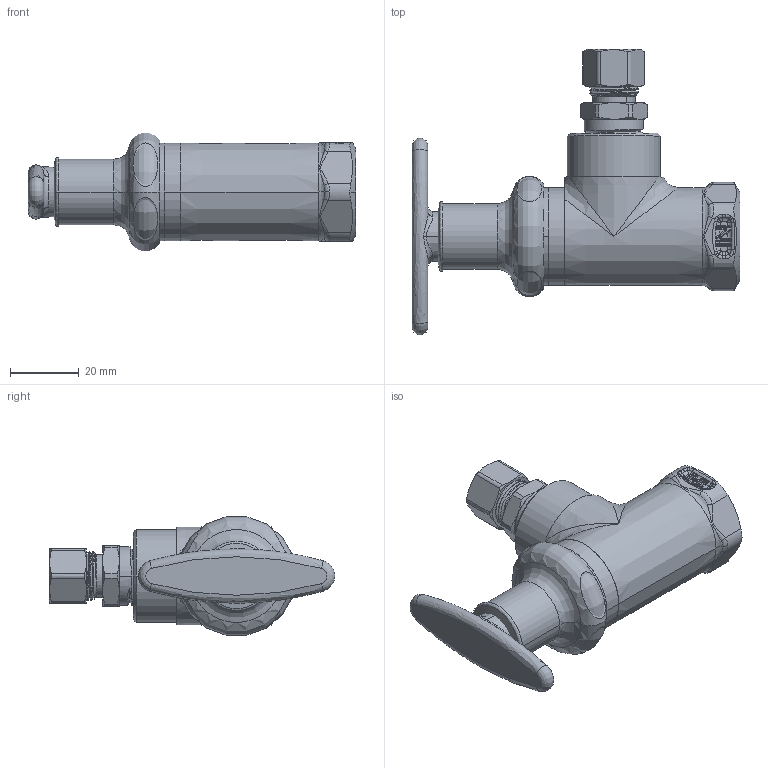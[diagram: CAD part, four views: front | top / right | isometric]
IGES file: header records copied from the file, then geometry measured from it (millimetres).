
Start section:  PTC IGES file: 1013-CP_REV031010.igs
Global section: file name: 1013-CP_REV031010.igs; native system: Pro/ENGINEER by Parametric Technology Corporation; preprocessor: 2009230; author: sdmitruk; organization: Unknown; date: 20100310.095400; units: inch
Bounding box: 95.15 x 82.88 x 34.36 mm (x, y, z)
Surface area: 18202 mm2 (no closed solid volume)
Topology: 0 solids, 15 shells, 310 faces, 771 edges, 470 vertices
Faces by surface type: revolution 177, bspline 133
